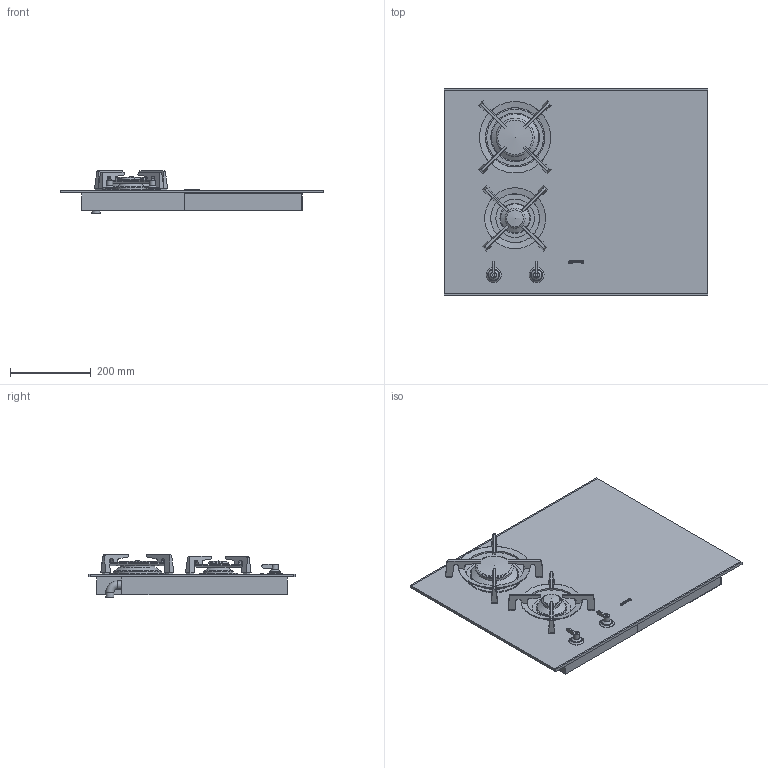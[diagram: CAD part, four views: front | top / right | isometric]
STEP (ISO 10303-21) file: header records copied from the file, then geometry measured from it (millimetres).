
FILE_DESCRIPTION(/* description */ (''),/* implementation_level */ '2;1');
FILE_NAME(/* name */ 'PM3621WLDNLK.stp',/* time_stamp */ '2017-10-30T14:04:35+01:00',/* author */ (''),/* organization */ (''),/* preprocessor_version */ 'ST-DEVELOPER v16',/* originating_system */ 'SIEMENS PLM Software NX 11.0',/* authorisation */ '');
FILE_SCHEMA (('AUTOMOTIVE_DESIGN { 1 0 10303 214 3 1 1 1 }'));
Length unit declared in the file: millimetre
Products named in the file (1): gras6F68B18Fml2u
Bounding box: 650 x 510 x 104.5 mm (x, y, z)
Volume: 11152277.5 mm3; surface area: 1594966.1 mm2
Topology: 26 solids, 26 shells, 376 faces, 885 edges, 582 vertices
Faces by surface type: plane 257, cylinder 77, torus 15, extrusion 11, revolution 6, cone 6, sphere 4
Full cylindrical faces by diameter (mm): 3.37 x6, 6 x2, 14.996 x2, 17 x2, 20 x5, 42 x1, 43 x1, 70.5 x1, 75 x1, 87 x1, 88 x1, 95 x1, 115 x1, 120 x1, 140 x1, 150.61 x1, 176.491 x1
Entity records: 10807 total; most frequent: CARTESIAN_POINT 2232, DIRECTION 1674, ORIENTED_EDGE 1616, EDGE_CURVE 808, VECTOR 584, LINE 573, VERTEX_POINT 566, AXIS2_PLACEMENT_3D 542
